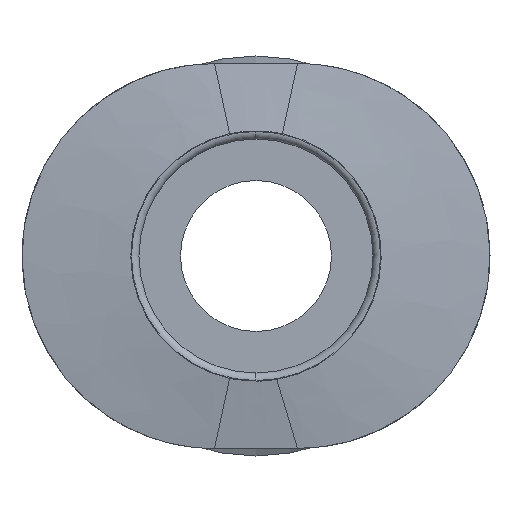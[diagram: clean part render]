
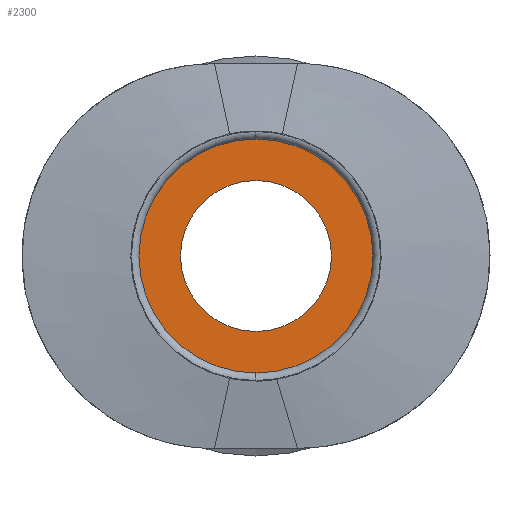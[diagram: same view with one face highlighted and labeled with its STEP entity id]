
A CAD part, front view. The second image highlights one B-rep face of the part: STEP entity #2300.
In plain terms, the highlighted planar face has unit normal (0, -1, 0).
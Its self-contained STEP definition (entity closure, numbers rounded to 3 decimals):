
#60 = EDGE_LOOP ( 'NONE', ( #734, #2068 ) ) ;
#80 = EDGE_CURVE ( 'NONE', #1121, #1463, #285, .T. ) ;
#123 = CARTESIAN_POINT ( 'NONE',  ( -3.1, -0.48, 0. ) ) ;
#150 = CARTESIAN_POINT ( 'NONE',  ( 0., -0.48, 0. ) ) ;
#285 = CIRCLE ( 'NONE', #1144, 2. ) ;
#314 = DIRECTION ( 'NONE',  ( 0., -1., 0. ) ) ;
#326 = DIRECTION ( 'NONE',  ( 1., 0., 0. ) ) ;
#575 = CARTESIAN_POINT ( 'NONE',  ( 2., -0.48, 0. ) ) ;
#657 = ORIENTED_EDGE ( 'NONE', *, *, #2024, .T. ) ;
#692 = CIRCLE ( 'NONE', #2216, 2. ) ;
#704 = DIRECTION ( 'NONE',  ( 0., -1., 0. ) ) ;
#708 = EDGE_LOOP ( 'NONE', ( #1561, #657 ) ) ;
#723 = CIRCLE ( 'NONE', #1444, 3.1 ) ;
#725 = FACE_OUTER_BOUND ( 'NONE', #708, .T. ) ;
#734 = ORIENTED_EDGE ( 'NONE', *, *, #1350, .F. ) ;
#797 = AXIS2_PLACEMENT_3D ( 'NONE', #150, #1114, #1687 ) ;
#885 = CARTESIAN_POINT ( 'NONE',  ( 0., -0.48, 0. ) ) ;
#1014 = CARTESIAN_POINT ( 'NONE',  ( 0., -0.48, 0. ) ) ;
#1114 = DIRECTION ( 'NONE',  ( 0., -1., 0. ) ) ;
#1116 = CARTESIAN_POINT ( 'NONE',  ( 0., -0.48, 0. ) ) ;
#1121 = VERTEX_POINT ( 'NONE', #575 ) ;
#1144 = AXIS2_PLACEMENT_3D ( 'NONE', #1116, #704, #1889 ) ;
#1350 = EDGE_CURVE ( 'NONE', #1463, #1121, #692, .T. ) ;
#1382 = CARTESIAN_POINT ( 'NONE',  ( 3.1, -0.48, 0. ) ) ;
#1444 = AXIS2_PLACEMENT_3D ( 'NONE', #885, #314, #2464 ) ;
#1463 = VERTEX_POINT ( 'NONE', #2198 ) ;
#1510 = CARTESIAN_POINT ( 'NONE',  ( -2.55, -0.48, 0. ) ) ;
#1561 = ORIENTED_EDGE ( 'NONE', *, *, #2025, .T. ) ;
#1638 = AXIS2_PLACEMENT_3D ( 'NONE', #1510, #2419, #326 ) ;
#1687 = DIRECTION ( 'NONE',  ( -1., 0., 0. ) ) ;
#1755 = DIRECTION ( 'NONE',  ( 0., -1., 0. ) ) ;
#1889 = DIRECTION ( 'NONE',  ( -1., 0., 0. ) ) ;
#1966 = DIRECTION ( 'NONE',  ( -1., 0., 0. ) ) ;
#1968 = CIRCLE ( 'NONE', #797, 3.1 ) ;
#2016 = VERTEX_POINT ( 'NONE', #123 ) ;
#2024 = EDGE_CURVE ( 'NONE', #2452, #2016, #723, .T. ) ;
#2025 = EDGE_CURVE ( 'NONE', #2016, #2452, #1968, .T. ) ;
#2031 = PLANE ( 'NONE',  #1638 ) ;
#2068 = ORIENTED_EDGE ( 'NONE', *, *, #80, .F. ) ;
#2198 = CARTESIAN_POINT ( 'NONE',  ( -2., -0.48, 0. ) ) ;
#2216 = AXIS2_PLACEMENT_3D ( 'NONE', #1014, #1755, #1966 ) ;
#2300 = ADVANCED_FACE ( 'NONE', ( #725, #2461 ), #2031, .F. ) ;
#2419 = DIRECTION ( 'NONE',  ( 0., 1., 0. ) ) ;
#2452 = VERTEX_POINT ( 'NONE', #1382 ) ;
#2461 = FACE_BOUND ( 'NONE', #60, .T. ) ;
#2464 = DIRECTION ( 'NONE',  ( -1., 0., 0. ) ) ;
